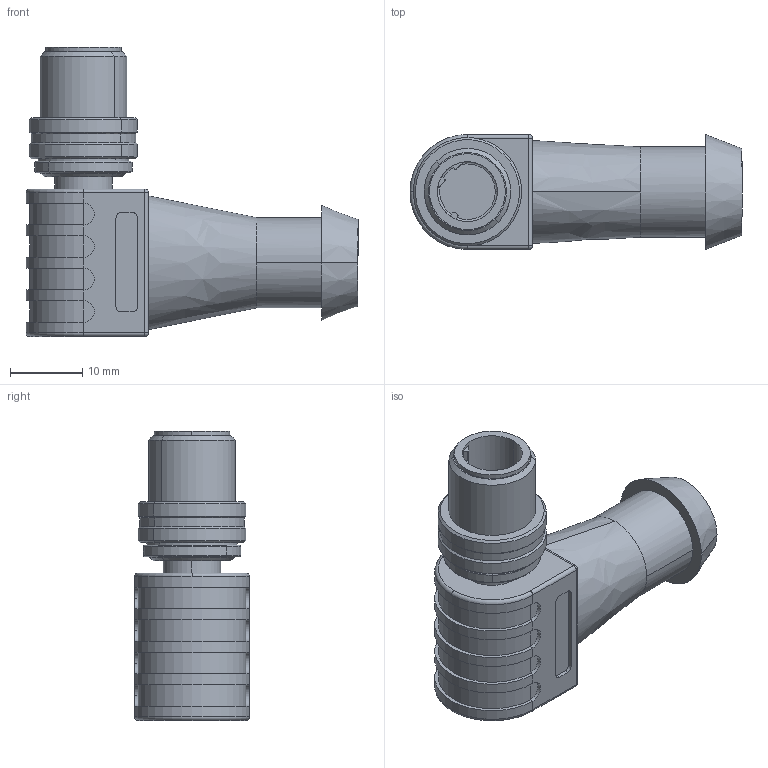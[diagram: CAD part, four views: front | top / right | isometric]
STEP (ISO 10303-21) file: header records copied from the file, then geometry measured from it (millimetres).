
FILE_DESCRIPTION (( 'STEP AP203' ), '1' );
FILE_NAME ('WSSD.step', '2015-08-06T12:51:57', ( 'Turck User' ), ( '' ), 'SwSTEP 2.0', 'SolidWorks 2014', '' );
FILE_SCHEMA (( 'CONFIG_CONTROL_DESIGN' ));
Length unit declared in the file: millimetre
Products named in the file (2): WSSD
Bounding box: 45.95 x 15.9 x 40 mm (x, y, z)
Volume: 11056.7 mm3; surface area: 4439.9 mm2
Topology: 1 solids, 1 shells, 164 faces, 374 edges, 222 vertices
Faces by surface type: cylinder 73, plane 54, torus 17, cone 14, sphere 4, bspline 2
Entity records: 4992 total; most frequent: CARTESIAN_POINT 1058, DIRECTION 875, ORIENTED_EDGE 740, EDGE_CURVE 370, AXIS2_PLACEMENT_3D 357, VERTEX_POINT 222, CIRCLE 193, EDGE_LOOP 178
